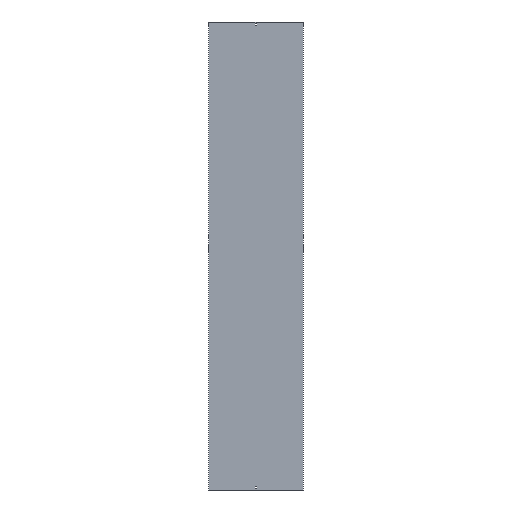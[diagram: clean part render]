
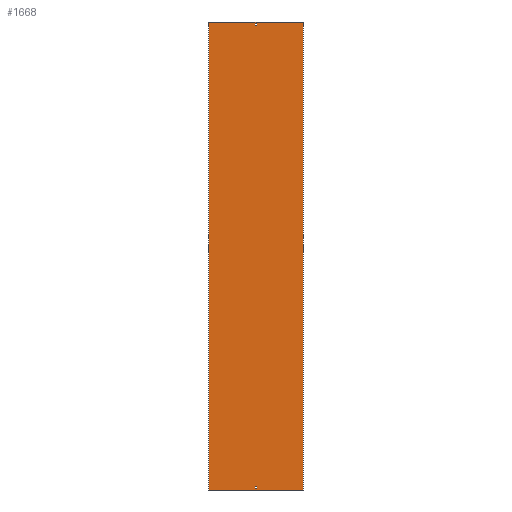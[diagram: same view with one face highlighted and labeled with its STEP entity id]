
A CAD part, front view. The second image highlights one B-rep face of the part: STEP entity #1668.
In plain terms, the highlighted planar face has unit normal (0, -1, 0).
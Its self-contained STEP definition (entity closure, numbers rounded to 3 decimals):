
#4 = ORIENTED_EDGE ( 'NONE', *, *, #118, .T. ) ;
#37 = DIRECTION ( 'NONE',  ( -1., 0., 0. ) ) ;
#43 = CARTESIAN_POINT ( 'NONE',  ( -302., 0., 1500. ) ) ;
#69 = LINE ( 'NONE', #1622, #562 ) ;
#92 = CARTESIAN_POINT ( 'NONE',  ( -3.25, 0., 1488. ) ) ;
#104 = CARTESIAN_POINT ( 'NONE',  ( -3.25, 0., -1488. ) ) ;
#118 = EDGE_CURVE ( 'NONE', #1092, #236, #430, .T. ) ;
#149 = FACE_BOUND ( 'NONE', #383, .T. ) ;
#178 = PLANE ( 'NONE',  #328 ) ;
#198 = ORIENTED_EDGE ( 'NONE', *, *, #336, .T. ) ;
#234 = VERTEX_POINT ( 'NONE', #92 ) ;
#236 = VERTEX_POINT ( 'NONE', #239 ) ;
#239 = CARTESIAN_POINT ( 'NONE',  ( 302., 0., -1500. ) ) ;
#242 = VERTEX_POINT ( 'NONE', #915 ) ;
#246 = VECTOR ( 'NONE', #353, 1000. ) ;
#296 = VERTEX_POINT ( 'NONE', #489 ) ;
#326 = VERTEX_POINT ( 'NONE', #568 ) ;
#328 = AXIS2_PLACEMENT_3D ( 'NONE', #700, #662, #1463 ) ;
#336 = EDGE_CURVE ( 'NONE', #296, #1092, #1173, .T. ) ;
#344 = LINE ( 'NONE', #1637, #946 ) ;
#353 = DIRECTION ( 'NONE',  ( 0., 0., 1. ) ) ;
#383 = EDGE_LOOP ( 'NONE', ( #397, #406, #830, #1374 ) ) ;
#386 = CARTESIAN_POINT ( 'NONE',  ( 3.25, 0., -1488. ) ) ;
#397 = ORIENTED_EDGE ( 'NONE', *, *, #653, .F. ) ;
#406 = ORIENTED_EDGE ( 'NONE', *, *, #908, .F. ) ;
#408 = ORIENTED_EDGE ( 'NONE', *, *, #1317, .T. ) ;
#430 = LINE ( 'NONE', #1612, #640 ) ;
#459 = EDGE_CURVE ( 'NONE', #242, #879, #1386, .T. ) ;
#489 = CARTESIAN_POINT ( 'NONE',  ( -302., 0., 1500. ) ) ;
#537 = VECTOR ( 'NONE', #945, 1000. ) ;
#557 = CARTESIAN_POINT ( 'NONE',  ( -3.25, 0., 1488. ) ) ;
#562 = VECTOR ( 'NONE', #706, 1000. ) ;
#568 = CARTESIAN_POINT ( 'NONE',  ( 3.25, 0., -1479. ) ) ;
#628 = VERTEX_POINT ( 'NONE', #104 ) ;
#630 = ORIENTED_EDGE ( 'NONE', *, *, #1465, .T. ) ;
#640 = VECTOR ( 'NONE', #1095, 1000. ) ;
#653 = EDGE_CURVE ( 'NONE', #719, #242, #1662, .T. ) ;
#662 = DIRECTION ( 'NONE',  ( 0., 1., 0. ) ) ;
#665 = VERTEX_POINT ( 'NONE', #1670 ) ;
#669 = DIRECTION ( 'NONE',  ( 0., 0., -1. ) ) ;
#687 = LINE ( 'NONE', #557, #1294 ) ;
#691 = LINE ( 'NONE', #1186, #971 ) ;
#700 = CARTESIAN_POINT ( 'NONE',  ( -302., 0., 1500. ) ) ;
#706 = DIRECTION ( 'NONE',  ( 0., 0., -1. ) ) ;
#719 = VERTEX_POINT ( 'NONE', #796 ) ;
#720 = CARTESIAN_POINT ( 'NONE',  ( 3.25, 0., 1488. ) ) ;
#743 = CARTESIAN_POINT ( 'NONE',  ( -3.25, 0., -1488. ) ) ;
#761 = LINE ( 'NONE', #907, #1000 ) ;
#767 = EDGE_CURVE ( 'NONE', #879, #234, #687, .T. ) ;
#776 = EDGE_CURVE ( 'NONE', #296, #665, #1443, .T. ) ;
#796 = CARTESIAN_POINT ( 'NONE',  ( -3.25, 0., 1479. ) ) ;
#801 = LINE ( 'NONE', #926, #537 ) ;
#809 = VECTOR ( 'NONE', #1425, 1000. ) ;
#830 = ORIENTED_EDGE ( 'NONE', *, *, #767, .F. ) ;
#879 = VERTEX_POINT ( 'NONE', #720 ) ;
#907 = CARTESIAN_POINT ( 'NONE',  ( 3.25, 0., -1488. ) ) ;
#908 = EDGE_CURVE ( 'NONE', #234, #719, #69, .T. ) ;
#915 = CARTESIAN_POINT ( 'NONE',  ( 3.25, 0., 1479. ) ) ;
#916 = FACE_BOUND ( 'NONE', #931, .T. ) ;
#926 = CARTESIAN_POINT ( 'NONE',  ( -3.25, 0., -1479. ) ) ;
#927 = VERTEX_POINT ( 'NONE', #1384 ) ;
#931 = EDGE_LOOP ( 'NONE', ( #408, #1417, #1279, #630 ) ) ;
#941 = CARTESIAN_POINT ( 'NONE',  ( -302., 0., 1500. ) ) ;
#945 = DIRECTION ( 'NONE',  ( 1., 0., 0. ) ) ;
#946 = VECTOR ( 'NONE', #1003, 1000. ) ;
#951 = ORIENTED_EDGE ( 'NONE', *, *, #1499, .F. ) ;
#971 = VECTOR ( 'NONE', #1473, 1000. ) ;
#1000 = VECTOR ( 'NONE', #1534, 1000. ) ;
#1003 = DIRECTION ( 'NONE',  ( 0., 0., -1. ) ) ;
#1031 = CARTESIAN_POINT ( 'NONE',  ( -3.25, 0., 1479. ) ) ;
#1092 = VERTEX_POINT ( 'NONE', #1125 ) ;
#1094 = LINE ( 'NONE', #743, #1602 ) ;
#1095 = DIRECTION ( 'NONE',  ( 1., 0., 0. ) ) ;
#1122 = EDGE_CURVE ( 'NONE', #326, #1579, #761, .T. ) ;
#1125 = CARTESIAN_POINT ( 'NONE',  ( -302., 0., -1500. ) ) ;
#1173 = LINE ( 'NONE', #941, #1428 ) ;
#1184 = FACE_OUTER_BOUND ( 'NONE', #1337, .T. ) ;
#1186 = CARTESIAN_POINT ( 'NONE',  ( -3.25, 0., -1488. ) ) ;
#1279 = ORIENTED_EDGE ( 'NONE', *, *, #1122, .T. ) ;
#1282 = ORIENTED_EDGE ( 'NONE', *, *, #776, .F. ) ;
#1287 = EDGE_CURVE ( 'NONE', #927, #326, #801, .T. ) ;
#1294 = VECTOR ( 'NONE', #37, 1000. ) ;
#1317 = EDGE_CURVE ( 'NONE', #628, #927, #691, .T. ) ;
#1337 = EDGE_LOOP ( 'NONE', ( #4, #951, #1282, #198 ) ) ;
#1367 = DIRECTION ( 'NONE',  ( -1., 0., 0. ) ) ;
#1374 = ORIENTED_EDGE ( 'NONE', *, *, #459, .F. ) ;
#1384 = CARTESIAN_POINT ( 'NONE',  ( -3.25, 0., -1479. ) ) ;
#1386 = LINE ( 'NONE', #1652, #246 ) ;
#1417 = ORIENTED_EDGE ( 'NONE', *, *, #1287, .T. ) ;
#1425 = DIRECTION ( 'NONE',  ( 1., 0., 0. ) ) ;
#1428 = VECTOR ( 'NONE', #669, 1000. ) ;
#1443 = LINE ( 'NONE', #43, #1568 ) ;
#1463 = DIRECTION ( 'NONE',  ( -1., 0., 0. ) ) ;
#1465 = EDGE_CURVE ( 'NONE', #1579, #628, #1094, .T. ) ;
#1473 = DIRECTION ( 'NONE',  ( 0., 0., 1. ) ) ;
#1499 = EDGE_CURVE ( 'NONE', #665, #236, #344, .T. ) ;
#1534 = DIRECTION ( 'NONE',  ( 0., 0., -1. ) ) ;
#1568 = VECTOR ( 'NONE', #1586, 1000. ) ;
#1579 = VERTEX_POINT ( 'NONE', #386 ) ;
#1586 = DIRECTION ( 'NONE',  ( 1., 0., 0. ) ) ;
#1602 = VECTOR ( 'NONE', #1367, 1000. ) ;
#1612 = CARTESIAN_POINT ( 'NONE',  ( -302., 0., -1500. ) ) ;
#1622 = CARTESIAN_POINT ( 'NONE',  ( -3.25, 0., 1488. ) ) ;
#1637 = CARTESIAN_POINT ( 'NONE',  ( 302., 0., 1500. ) ) ;
#1652 = CARTESIAN_POINT ( 'NONE',  ( 3.25, 0., 1488. ) ) ;
#1662 = LINE ( 'NONE', #1031, #809 ) ;
#1668 = ADVANCED_FACE ( 'NONE', ( #1184, #149, #916 ), #178, .F. ) ;
#1670 = CARTESIAN_POINT ( 'NONE',  ( 302., 0., 1500. ) ) ;
